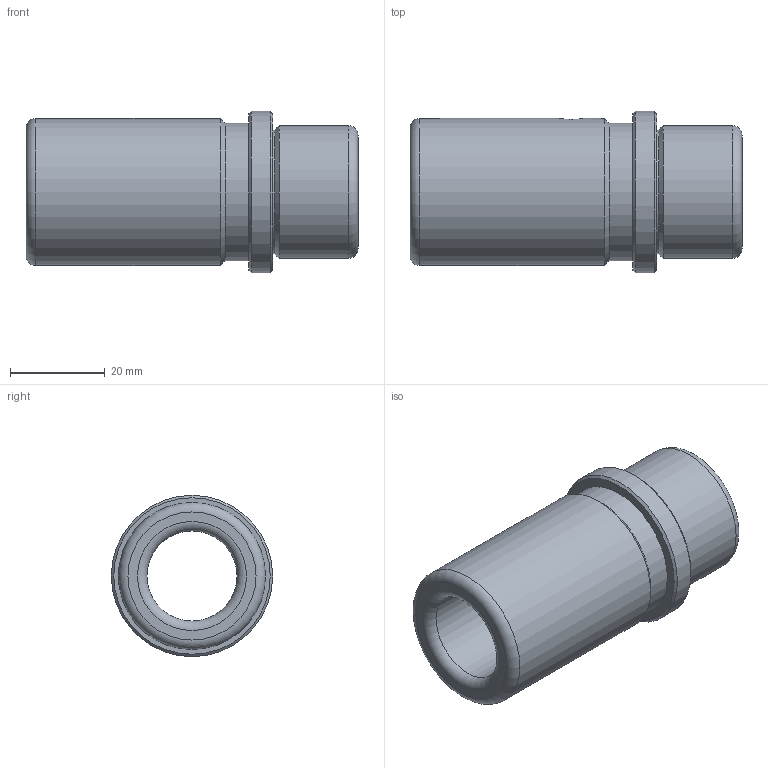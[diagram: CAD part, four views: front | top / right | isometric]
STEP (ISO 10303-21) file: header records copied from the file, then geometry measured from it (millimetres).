
FILE_DESCRIPTION( ( 'STEP AP214' ), '1' );
FILE_NAME( 'p:/temp/worker_21/temp/exporttempdir_912_452_xgbPU/format_1/WZ - 4055 19 x 70.stp', '2020-12-04T19:46:05', ( 'License CC BY-ND 4.0' ), ( 'CADENAS' ), ' ', 'PARTsolutions', ' ' );
FILE_SCHEMA( ( 'AUTOMOTIVE_DESIGN { 1 0 10303 214 1 1 1 1 }' ) );
Length unit declared in the file: millimetre
Products named in the file (1): _WZ - 4055 19 x 70
Bounding box: 70 x 34 x 34 mm (x, y, z)
Volume: 30082.5 mm3; surface area: 12185.9 mm2
Topology: 1 solids, 1 shells, 21 faces, 38 edges, 22 vertices
Faces by surface type: cylinder 7, cone 5, plane 5, torus 4
Full cylindrical faces by diameter (mm): 4.917 x1, 19 x1, 26 x1, 28 x1, 29 x1, 31 x1, 34 x1
Entity records: 736 total; most frequent: CARTESIAN_POINT 182, DIRECTION 84, EDGE_LOOP 44, ORIENTED_EDGE 44, AXIS2_PLACEMENT_3D 42, FACE_OUTER_BOUND 32, EDGE_CURVE 22, VERTEX_POINT 22
